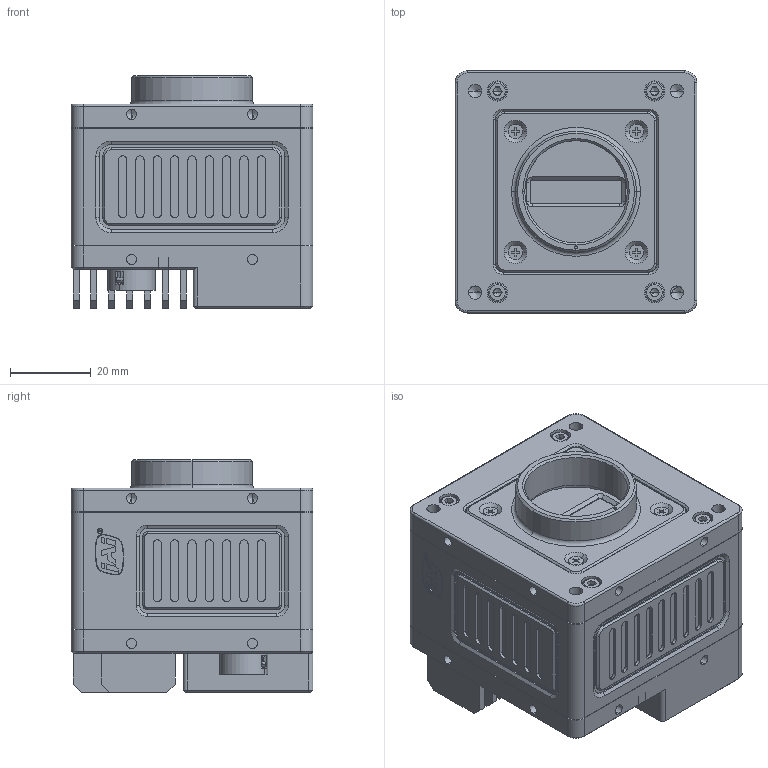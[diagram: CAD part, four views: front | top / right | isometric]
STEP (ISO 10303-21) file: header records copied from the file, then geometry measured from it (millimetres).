
FILE_DESCRIPTION((''),'2;1');
FILE_NAME('NONE6','2026-06-03T09:05:07',('h05451'),(''),'CREO PARAMETRIC BY PTC INC, 2018050','CREO PARAMETRIC BY PTC INC, 2018050','');
FILE_SCHEMA(('CONFIG_CONTROL_DESIGN'));
Length unit declared in the file: millimetre
Products named in the file (1): NONE6
Bounding box: 60 x 60 x 57.64 mm (x, y, z)
Volume: 156772.1 mm3; surface area: 37124.2 mm2
Topology: 1 solids, 22 shells, 1572 faces, 4044 edges, 2589 vertices
Faces by surface type: plane 917, cylinder 400, cone 165, extrusion 68, torus 22
Entity records: 49511 total; most frequent: CARTESIAN_POINT 10898, ORIENTED_EDGE 7980, DIRECTION 7926, EDGE_CURVE 3990, VECTOR 2658, AXIS2_PLACEMENT_3D 2634, LINE 2590, VERTEX_POINT 2589
